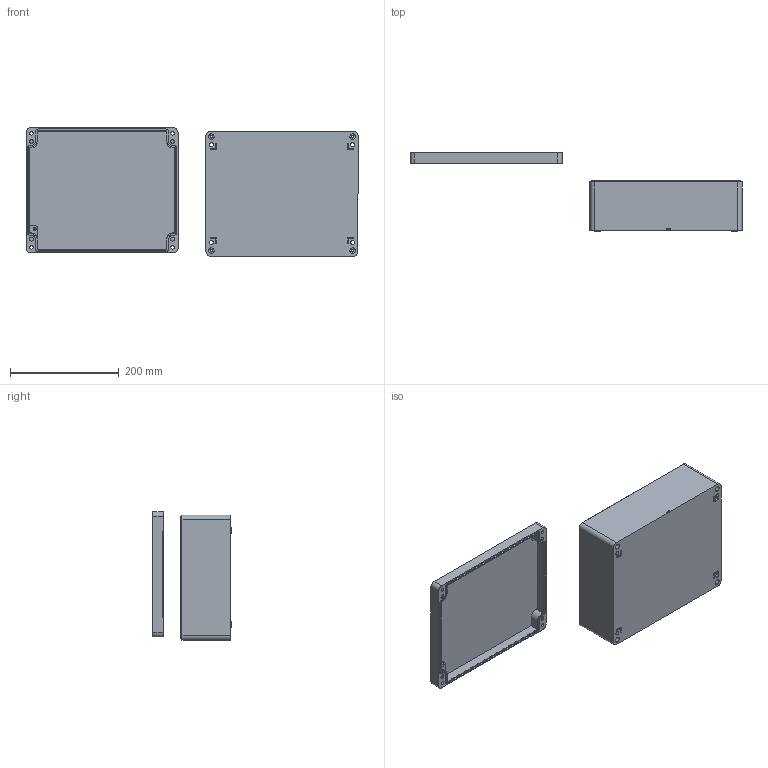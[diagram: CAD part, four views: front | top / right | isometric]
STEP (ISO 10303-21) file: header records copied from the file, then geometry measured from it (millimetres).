
FILE_DESCRIPTION (( 'STEP AP203' ), '1' );
FILE_NAME ('ZX-AL-232811_装配体.STEP', '2022-01-24T09:20:41', ( '微软用户' ), ( '微软中国' ), 'SwSTEP 2.0', 'SolidWorks 2020', '' );
FILE_SCHEMA (( 'CONFIG_CONTROL_DESIGN' ));
Length unit declared in the file: millimetre
Products named in the file (3): ZX-AL-232811_奻; ZX-AL-232811_蚾饜极; ZX-AL-232811_狟
Assembly tree (2 placements, depth 2):
  ZX-AL-232811_蚾饜极
    ZX-AL-232811_狟
    ZX-AL-232811_奻
Bounding box: 611.54 x 145.14 x 236.12 mm (x, y, z)
Volume: 1112158.4 mm3; surface area: 501289.9 mm2
Topology: 2 solids, 2 shells, 713 faces, 1906 edges, 1225 vertices
Faces by surface type: plane 342, cylinder 180, bspline 123, cone 68
Entity records: 27835 total; most frequent: CARTESIAN_POINT 10470, ORIENTED_EDGE 3752, DIRECTION 3146, EDGE_CURVE 1876, LINE 1256, VECTOR 1256, VERTEX_POINT 1225, AXIS2_PLACEMENT_3D 945
